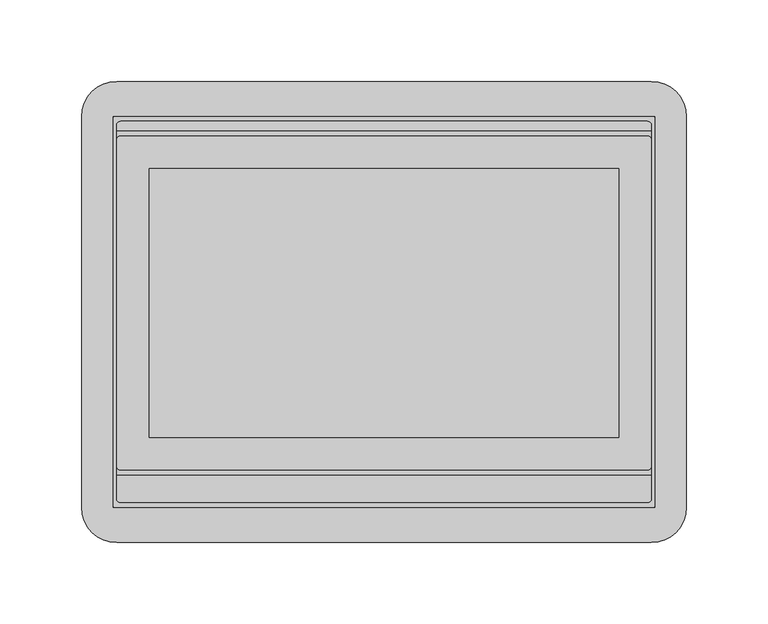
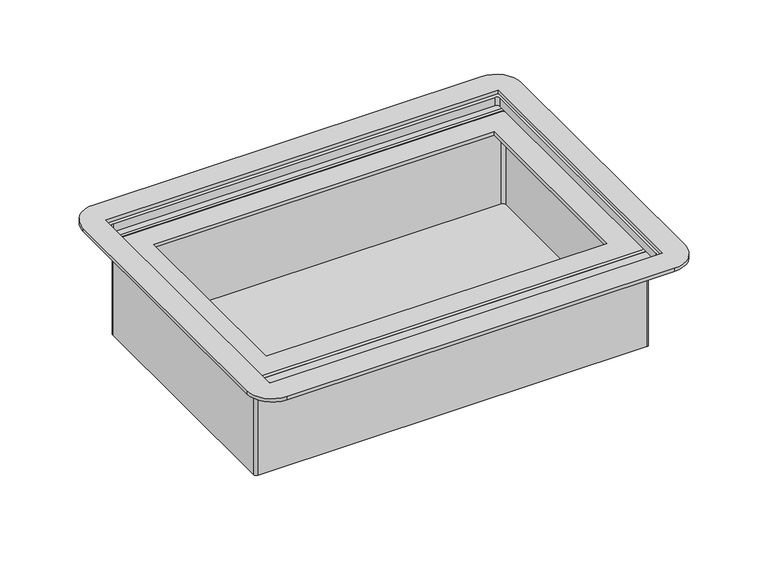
"""IFC4 building model written with IfcOpenShell, lengths in millimetres: proxy geometry, КНС_ЛючокНапольныйНа12Модулей_ILF_DKC : Лючок."""

from ifc_helpers import new_model, si_unit, point, frame, frame_2d, origin, origin_with_axes, place, context, project, spatial, polyline, circle_curve, trimmed, segment, composite_curve, outline, extrude, source, transform, mapped, element, save


def electrical_fixtures_1be6d308(model_context):
    return source(origin(), model_context, "Body", "SweptSolid", [
        extrude(outline(composite_curve([segment(trimmed(circle_curve(frame_2d((164.5972817, 117.5756463)), 2.4075575), [point((164.5972817, 119.9832037))], [point((167.0048392, 117.5756463))], False, "CARTESIAN"), True, "CONTINUOUS"), segment(polyline([(167.0048392, 117.5756463), (167.0048392, -117.5756463)]), True, "CONTINUOUS"), segment(trimmed(circle_curve(frame_2d((164.5972817, -117.5756463)), 2.4075575), [point((167.0048392, -117.5756463))], [point((164.5972817, -119.9832037))], False, "CARTESIAN"), True, "CONTINUOUS"), segment(polyline([(164.5972817, -119.9832037), (-164.5972817, -119.9832037)]), True, "CONTINUOUS"), segment(trimmed(circle_curve(frame_2d((-164.5972817, -117.5756463)), 2.4075575), [point((-164.5972817, -119.9832037))], [point((-167.0048392, -117.5756463))], False, "CARTESIAN"), True, "CONTINUOUS"), segment(polyline([(-167.0048392, -117.5756463), (-167.0048392, 117.5756463)]), True, "CONTINUOUS"), segment(trimmed(circle_curve(frame_2d((-164.5972817, 117.5756463)), 2.4075575), [point((-167.0048392, 117.5756463))], [point((-164.5972817, 119.9832037))], False, "CARTESIAN"), True, "CONTINUOUS"), segment(polyline([(-164.5972817, 119.9832037), (164.5972817, 119.9832037)]), True, "CONTINUOUS")], self_intersect=False), holes=[composite_curve([segment(polyline([(161.5972817, 116.9832037), (-161.5972817, 116.9832037)]), True, "CONTINUOUS"), segment(trimmed(circle_curve(frame_2d((-161.5972817, 114.5756463)), 2.4075575), [point((-161.5972817, 116.9832037))], [point((-164.0048392, 114.5756463))], True, "CARTESIAN"), True, "CONTINUOUS"), segment(polyline([(-164.0048392, 114.5756463), (-164.0048392, -114.5756463)]), True, "CONTINUOUS"), segment(trimmed(circle_curve(frame_2d((-161.5972817, -114.5756463)), 2.4075575), [point((-164.0048392, -114.5756463))], [point((-161.5972817, -116.9832037))], True, "CARTESIAN"), True, "CONTINUOUS"), segment(polyline([(-161.5972817, -116.9832037), (161.5972817, -116.9832037)]), True, "CONTINUOUS"), segment(trimmed(circle_curve(frame_2d((161.5972817, -114.5756463)), 2.4075575), [point((161.5972817, -116.9832037))], [point((164.0048392, -114.5756463))], True, "CARTESIAN"), True, "CONTINUOUS"), segment(polyline([(164.0048392, -114.5756463), (164.0048392, 114.5756463)]), True, "CONTINUOUS"), segment(trimmed(circle_curve(frame_2d((161.5972817, 114.5756463)), 2.4075575), [point((164.0048392, 114.5756463))], [point((161.5972817, 116.9832037))], True, "CARTESIAN"), True, "CONTINUOUS")], self_intersect=False)]), frame((0.0, 0.0, -10.0), z_axis=(0.0, 0.0, 1.0), x_axis=(1.0, 0.0, 0.0)), (0.0, 0.0, 1.0), 10.0),
        extrude(outline(composite_curve([segment(trimmed(circle_curve(frame_2d((164.5972817, 108.5756463)), 2.4075575), [point((164.5972817, 110.9832037))], [point((167.0048392, 108.5756463))], False, "CARTESIAN"), True, "CONTINUOUS"), segment(polyline([(167.0048392, 108.5756463), (167.0048392, -97.5756463)]), True, "CONTINUOUS"), segment(trimmed(circle_curve(frame_2d((164.5972817, -97.5756463)), 2.4075575), [point((167.0048392, -97.5756463))], [point((164.5972817, -99.9832037))], False, "CARTESIAN"), True, "CONTINUOUS"), segment(polyline([(164.5972817, -99.9832037), (-164.5972817, -99.9832037)]), True, "CONTINUOUS"), segment(trimmed(circle_curve(frame_2d((-164.5972817, -97.5756463)), 2.4075575), [point((-164.5972817, -99.9832037))], [point((-167.0048392, -97.5756463))], False, "CARTESIAN"), True, "CONTINUOUS"), segment(polyline([(-167.0048392, -97.5756463), (-167.0048392, 108.5756463)]), True, "CONTINUOUS"), segment(trimmed(circle_curve(frame_2d((-164.5972817, 108.5756463)), 2.4075575), [point((-167.0048392, 108.5756463))], [point((-164.5972817, 110.9832037))], False, "CARTESIAN"), True, "CONTINUOUS"), segment(polyline([(-164.5972817, 110.9832037), (164.5972817, 110.9832037)]), True, "CONTINUOUS")], self_intersect=False), holes=[composite_curve([segment(polyline([(161.5972817, 107.9832037), (-161.5972817, 107.9832037)]), True, "CONTINUOUS"), segment(trimmed(circle_curve(frame_2d((-161.5972817, 105.5756463)), 2.4075575), [point((-161.5972817, 107.9832037))], [point((-164.0048392, 105.5756463))], True, "CARTESIAN"), True, "CONTINUOUS"), segment(polyline([(-164.0048392, 105.5756463), (-164.0048392, -94.5756463)]), True, "CONTINUOUS"), segment(trimmed(circle_curve(frame_2d((-161.5972817, -94.5756463)), 2.4075575), [point((-164.0048392, -94.5756463))], [point((-161.5972817, -96.9832037))], True, "CARTESIAN"), True, "CONTINUOUS"), segment(polyline([(-161.5972817, -96.9832037), (161.5972817, -96.9832037)]), True, "CONTINUOUS"), segment(trimmed(circle_curve(frame_2d((161.5972817, -94.5756463)), 2.4075575), [point((161.5972817, -96.9832037))], [point((164.0048392, -94.5756463))], True, "CARTESIAN"), True, "CONTINUOUS"), segment(polyline([(164.0048392, -94.5756463), (164.0048392, 105.5756463)]), True, "CONTINUOUS"), segment(trimmed(circle_curve(frame_2d((161.5972817, 105.5756463)), 2.4075575), [point((164.0048392, 105.5756463))], [point((161.5972817, 107.9832037))], True, "CARTESIAN"), True, "CONTINUOUS")], self_intersect=False)]), frame((0.0, 0.0, -92.5), z_axis=(0.0, 0.0, 1.0), x_axis=(1.0, 0.0, 0.0)), (0.0, 0.0, 1.0), 85.5),
        extrude(outline(composite_curve([segment(trimmed(circle_curve(frame_2d((161.5972817, 105.5756463)), 2.4075575), [point((161.5972817, 107.9832037))], [point((164.0048392, 105.5756463))], False, "CARTESIAN"), True, "CONTINUOUS"), segment(polyline([(164.0048392, 105.5756463), (164.0048392, -94.5756463)]), True, "CONTINUOUS"), segment(trimmed(circle_curve(frame_2d((161.5972817, -94.5756463)), 2.4075575), [point((164.0048392, -94.5756463))], [point((161.5972817, -96.9832037))], False, "CARTESIAN"), True, "CONTINUOUS"), segment(polyline([(161.5972817, -96.9832037), (-161.5972817, -96.9832037)]), True, "CONTINUOUS"), segment(trimmed(circle_curve(frame_2d((-161.5972817, -94.5756463)), 2.4075575), [point((-161.5972817, -96.9832037))], [point((-164.0048392, -94.5756463))], False, "CARTESIAN"), True, "CONTINUOUS"), segment(polyline([(-164.0048392, -94.5756463), (-164.0048392, 105.5756463)]), True, "CONTINUOUS"), segment(trimmed(circle_curve(frame_2d((-161.5972817, 105.5756463)), 2.4075575), [point((-164.0048392, 105.5756463))], [point((-161.5972817, 107.9832037))], False, "CARTESIAN"), True, "CONTINUOUS"), segment(polyline([(-161.5972817, 107.9832037), (161.5972817, 107.9832037)]), True, "CONTINUOUS")], self_intersect=False)), frame((0.0, 0.0, -92.5), z_axis=(0.0, 0.0, 1.0), x_axis=(1.0, 0.0, 0.0)), (0.0, 0.0, 1.0), 3.0),
        extrude(outline(composite_curve([segment(trimmed(circle_curve(frame_2d((164.0048392, 119.9832037)), 21.5), [point((164.0048392, 141.4832037))], [point((185.5048392, 119.9832037))], False, "CARTESIAN"), True, "CONTINUOUS"), segment(polyline([(185.5048392, 119.9832037), (185.5048392, -119.9832037)]), True, "CONTINUOUS"), segment(trimmed(circle_curve(frame_2d((164.0048392, -119.9832037)), 21.5), [point((185.5048392, -119.9832037))], [point((164.0048392, -141.4832037))], False, "CARTESIAN"), True, "CONTINUOUS"), segment(polyline([(164.0048392, -141.4832037), (-164.0048392, -141.4832037)]), True, "CONTINUOUS"), segment(trimmed(circle_curve(frame_2d((-164.0048392, -119.9832037)), 21.5), [point((-164.0048392, -141.4832037))], [point((-185.5048392, -119.9832037))], False, "CARTESIAN"), True, "CONTINUOUS"), segment(polyline([(-185.5048392, -119.9832037), (-185.5048392, 119.9832037)]), True, "CONTINUOUS"), segment(trimmed(circle_curve(frame_2d((-164.0048392, 119.9832037)), 21.5), [point((-185.5048392, 119.9832037))], [point((-164.0048392, 141.4832037))], False, "CARTESIAN"), True, "CONTINUOUS"), segment(polyline([(-164.0048392, 141.4832037), (164.0048392, 141.4832037)]), True, "CONTINUOUS")], self_intersect=False), holes=[polyline([(166.0048392, 119.9832037), (-166.0048392, 119.9832037), (-166.0048392, -119.9832037), (166.0048392, -119.9832037), (166.0048392, 119.9832037)])]), origin_with_axes(), (0.0, 0.0, 1.0), 3.0),
        extrude(outline(composite_curve([segment(trimmed(circle_curve(frame_2d((161.5972817, 114.5756463)), 2.4075575), [point((161.5972817, 116.9832037))], [point((164.0048392, 114.5756463))], False, "CARTESIAN"), True, "CONTINUOUS"), segment(polyline([(164.0048392, 114.5756463), (164.0048392, -114.5756463)]), True, "CONTINUOUS"), segment(trimmed(circle_curve(frame_2d((161.5972817, -114.5756463)), 2.4075575), [point((164.0048392, -114.5756463))], [point((161.5972817, -116.9832037))], False, "CARTESIAN"), True, "CONTINUOUS"), segment(polyline([(161.5972817, -116.9832037), (-161.5972817, -116.9832037)]), True, "CONTINUOUS"), segment(trimmed(circle_curve(frame_2d((-161.5972817, -114.5756463)), 2.4075575), [point((-161.5972817, -116.9832037))], [point((-164.0048392, -114.5756463))], False, "CARTESIAN"), True, "CONTINUOUS"), segment(polyline([(-164.0048392, -114.5756463), (-164.0048392, 114.5756463)]), True, "CONTINUOUS"), segment(trimmed(circle_curve(frame_2d((-161.5972817, 114.5756463)), 2.4075575), [point((-164.0048392, 114.5756463))], [point((-161.5972817, 116.9832037))], False, "CARTESIAN"), True, "CONTINUOUS"), segment(polyline([(-161.5972817, 116.9832037), (161.5972817, 116.9832037)]), True, "CONTINUOUS")], self_intersect=False), holes=[polyline([(144.0048392, 87.9832037), (-144.0048392, 87.9832037), (-144.0048392, -76.9832037), (144.0048392, -76.9832037), (144.0048392, 87.9832037)])]), frame((0.0, 0.0, -10.0), z_axis=(0.0, 0.0, 1.0), x_axis=(1.0, 0.0, 0.0)), (0.0, 0.0, 1.0), 3.0),
    ])


if __name__ == "__main__":
    model = new_model("IFC4")
    model_context = context("Model", 3, world=origin())
    ifc_project = project(units=[si_unit("LENGTHUNIT", "METRE", prefix="MILLI")], contexts=[model_context])
    site = spatial("IfcSite", under=ifc_project)
    building = spatial("IfcBuilding", under=site)
    placement = place(None, origin())
    electrical_fixtures_shape = electrical_fixtures_1be6d308(model_context)
    element("IfcBuildingElementProxy", 1, Name="КНС_ЛючокНапольныйНа12Модулей_ILF_DKC : Лючок", ObjectType="КНС_ЛючокНапольныйНа12Модулей_ILF_DKC : Лючок", at=placement, inside=building, context=model_context, shape_type="MappedRepresentation", body=[
        mapped(electrical_fixtures_shape, transform((0.0, 0.0, 0.0), x_axis=(1.0, 0.0, 0.0), y_axis=(0.0, 1.0, 0.0), z_axis=(0.0, 0.0, 1.0))),
    ])
    save(model, "model.ifc")
